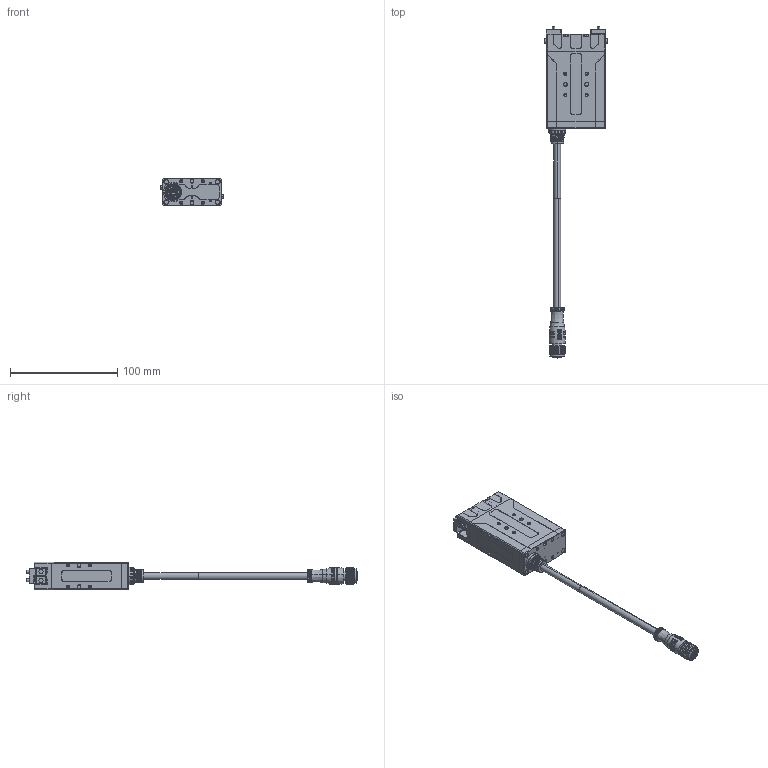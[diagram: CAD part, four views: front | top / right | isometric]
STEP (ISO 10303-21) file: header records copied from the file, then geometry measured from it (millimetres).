
FILE_DESCRIPTION (( 'STEP AP214' ), '1' );
FILE_NAME ('PGE-15-26-O-B.STEP', '2023-07-19T03:39:06', ( '' ), ( '' ), 'SwSTEP 2.0', 'SolidWorks 2020', '' );
FILE_SCHEMA (( 'AUTOMOTIVE_DESIGN' ));
Length unit declared in the file: millimetre
Products named in the file (3): PGE-15-26-O-B; PGE5-忒硌價釱; 菁堤褲
Assembly tree (3 placements, depth 2):
  PGE-15-26-O-B
    菁堤褲
    PGE5-忒硌價釱  x2
Bounding box: 58.4 x 310 x 26 mm (x, y, z)
Volume: 8242.9 mm3; surface area: 40980.7 mm2
Topology: 4 solids, 35 shells, 1675 faces, 4075 edges, 2526 vertices
Faces by surface type: plane 659, cylinder 409, cone 333, bspline 243, torus 30, sphere 1
Full cylindrical faces by diameter (mm): 11.1 x3
Entity records: 78479 total; most frequent: CARTESIAN_POINT 26837, ORIENTED_EDGE 7474, DIRECTION 6510, EDGE_CURVE 3741, AXIS2_PLACEMENT_3D 2388, VERTEX_POINT 2364, VECTOR 1734, LINE 1734
